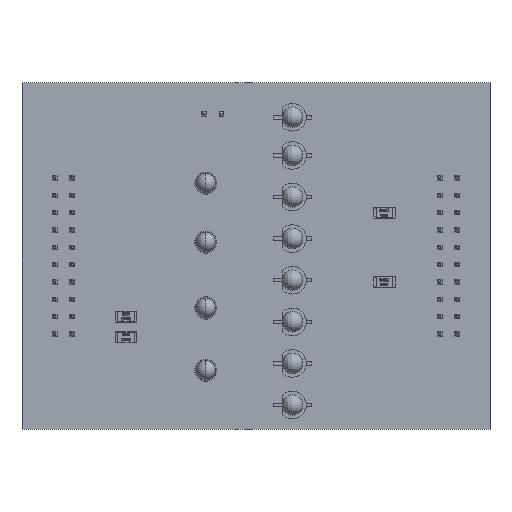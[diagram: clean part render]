
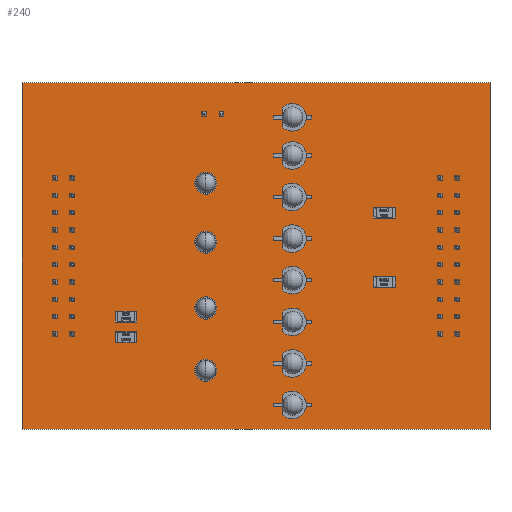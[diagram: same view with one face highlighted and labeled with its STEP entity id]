
A CAD part, top view. The second image highlights one B-rep face of the part: STEP entity #240.
In plain terms, the highlighted planar face has unit normal (0, 0, 1).
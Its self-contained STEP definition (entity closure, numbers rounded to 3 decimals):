
#111 = VERTEX_POINT('',#112);
#112 = CARTESIAN_POINT('',(0.,0.,0.));
#118 = EDGE_CURVE('',#111,#119,#121,.T.);
#119 = VERTEX_POINT('',#120);
#120 = CARTESIAN_POINT('',(68.58,0.,0.));
#121 = LINE('',#122,#123);
#122 = CARTESIAN_POINT('',(0.,0.,0.));
#123 = VECTOR('',#124,1.);
#124 = DIRECTION('',(1.,0.,0.));
#149 = EDGE_CURVE('',#119,#150,#152,.T.);
#150 = VERTEX_POINT('',#151);
#151 = CARTESIAN_POINT('',(68.58,50.8,0.));
#152 = LINE('',#153,#154);
#153 = CARTESIAN_POINT('',(68.58,0.,0.));
#154 = VECTOR('',#155,1.);
#155 = DIRECTION('',(0.,1.,0.));
#180 = EDGE_CURVE('',#150,#181,#183,.T.);
#181 = VERTEX_POINT('',#182);
#182 = CARTESIAN_POINT('',(0.,50.8,0.));
#183 = LINE('',#184,#185);
#184 = CARTESIAN_POINT('',(68.58,50.8,0.));
#185 = VECTOR('',#186,1.);
#186 = DIRECTION('',(-1.,0.,0.));
#211 = EDGE_CURVE('',#181,#111,#212,.T.);
#212 = LINE('',#213,#214);
#213 = CARTESIAN_POINT('',(0.,50.8,0.));
#214 = VECTOR('',#215,1.);
#215 = DIRECTION('',(0.,-1.,0.));
#240 = ADVANCED_FACE('',(#241),#247,.F.);
#241 = FACE_BOUND('',#242,.T.);
#242 = EDGE_LOOP('',(#243,#244,#245,#246));
#243 = ORIENTED_EDGE('',*,*,#118,.T.);
#244 = ORIENTED_EDGE('',*,*,#149,.T.);
#245 = ORIENTED_EDGE('',*,*,#180,.T.);
#246 = ORIENTED_EDGE('',*,*,#211,.T.);
#247 = PLANE('',#248);
#248 = AXIS2_PLACEMENT_3D('',#249,#250,#251);
#249 = CARTESIAN_POINT('',(0.,0.,0.));
#250 = DIRECTION('',(0.,0.,-1.));
#251 = DIRECTION('',(-1.,0.,0.));
